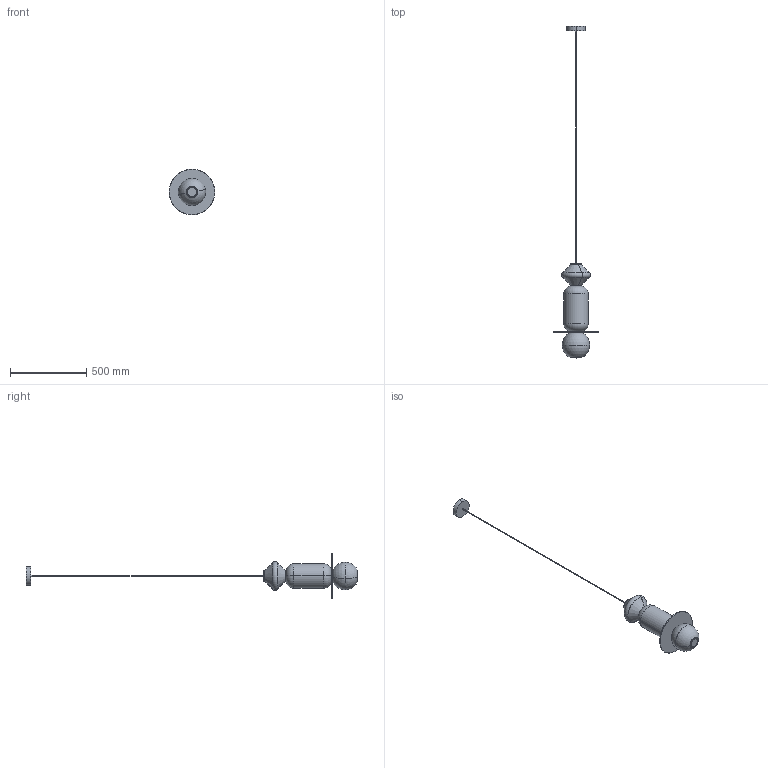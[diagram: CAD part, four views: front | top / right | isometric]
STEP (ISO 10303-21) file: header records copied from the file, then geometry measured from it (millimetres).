
FILE_DESCRIPTION (( 'STEP AP214' ), '1' );
FILE_NAME ('PAPI_C1233.STEP', '2026-06-08T15:07:34', ( '' ), ( '' ), 'SwSTEP 2.0', 'SolidWorks 2023', '' );
FILE_SCHEMA (( 'AUTOMOTIVE_DESIGN' ));
Length unit declared in the file: inch
Products named in the file (1): PAPI_C1233
Bounding box: 299.61 x 2171.97 x 299.61 mm (x, y, z)
Volume: 1698556.3 mm3; surface area: 941066.7 mm2
Topology: 18 solids, 18 shells, 376 faces, 944 edges, 610 vertices
Faces by surface type: cylinder 243, plane 59, bspline 30, torus 24, cone 12, sphere 8
Entity records: 24887 total; most frequent: CARTESIAN_POINT 16615, ORIENTED_EDGE 1888, DIRECTION 1512, EDGE_CURVE 944, VERTEX_POINT 610, AXIS2_PLACEMENT_3D 596, EDGE_LOOP 408, FACE_OUTER_BOUND 376
